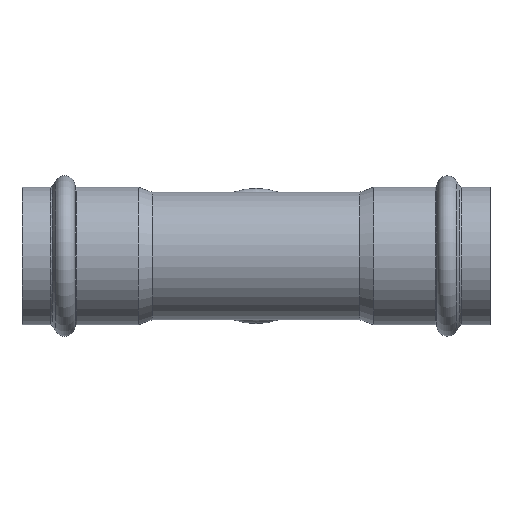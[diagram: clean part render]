
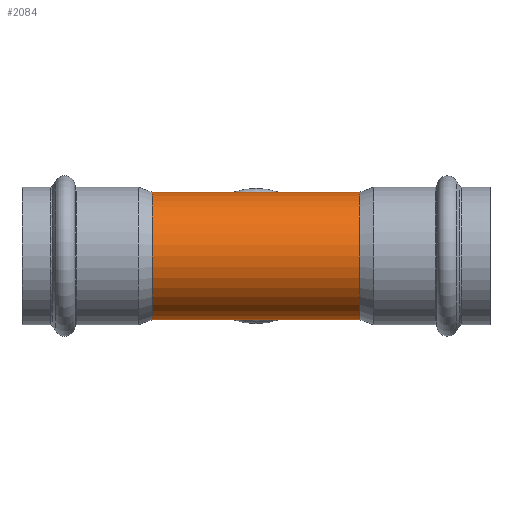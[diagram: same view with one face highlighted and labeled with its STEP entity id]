
A CAD part, front view. The second image highlights one B-rep face of the part: STEP entity #2084.
In plain terms, the highlighted cylindrical face has radius 21 mm (diameter 42 mm), a full revolution.
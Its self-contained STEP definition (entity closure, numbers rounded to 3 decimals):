
#1885=CARTESIAN_POINT('',(0.,11.365,17.659));
#1886=VERTEX_POINT('',#1885);
#1964=CARTESIAN_POINT('',(0.,11.365,17.659));
#1965=CARTESIAN_POINT('',(0.,11.365,17.659));
#1966=CARTESIAN_POINT('',(0.,11.365,17.659));
#1967=CARTESIAN_POINT('',(0.,11.365,17.659));
#1968=CARTESIAN_POINT('',(0.554,11.365,17.659));
#1969=CARTESIAN_POINT('',(1.291,11.415,17.627));
#1970=CARTESIAN_POINT('',(2.745,11.637,17.482));
#1971=CARTESIAN_POINT('',(5.033,12.229,17.087));
#1972=CARTESIAN_POINT('',(7.124,13.208,16.352));
#1973=CARTESIAN_POINT('',(8.884,14.174,15.5));
#1974=CARTESIAN_POINT('',(10.016,14.839,14.877));
#1975=CARTESIAN_POINT('',(11.483,15.778,13.887));
#1976=CARTESIAN_POINT('',(12.836,16.706,12.752));
#1977=CARTESIAN_POINT('',(13.741,17.353,11.837));
#1978=CARTESIAN_POINT('',(15.025,18.291,10.391));
#1979=CARTESIAN_POINT('',(16.255,19.228,8.615));
#1980=CARTESIAN_POINT('',(17.312,20.055,6.311));
#1981=CARTESIAN_POINT('',(17.753,20.404,5.005));
#1982=CARTESIAN_POINT('',(18.297,20.837,3.));
#1983=CARTESIAN_POINT('',(18.59,21.072,0.708));
#1984=CARTESIAN_POINT('',(18.411,20.928,-2.112));
#1985=CARTESIAN_POINT('',(17.976,20.581,-4.406));
#1986=CARTESIAN_POINT('',(17.411,20.133,-6.046));
#1987=CARTESIAN_POINT('',(16.86,19.701,-7.28));
#1988=CARTESIAN_POINT('',(16.462,19.392,-8.085));
#1989=CARTESIAN_POINT('',(15.623,18.747,-9.528));
#1990=CARTESIAN_POINT('',(14.703,18.055,-10.761));
#1991=CARTESIAN_POINT('',(13.555,17.218,-12.042));
#1992=CARTESIAN_POINT('',(12.324,16.345,-13.231));
#1993=CARTESIAN_POINT('',(10.44,15.089,-14.65));
#1994=CARTESIAN_POINT('',(8.743,14.081,-15.592));
#1995=CARTESIAN_POINT('',(7.147,13.242,-16.306));
#1996=CARTESIAN_POINT('',(5.883,12.65,-16.769));
#1997=CARTESIAN_POINT('',(4.328,12.072,-17.186));
#1998=CARTESIAN_POINT('',(2.932,11.679,-17.454));
#1999=CARTESIAN_POINT('',(1.484,11.425,-17.621));
#2000=CARTESIAN_POINT('',(0.009,11.335,-17.678));
#2001=CARTESIAN_POINT('',(-1.47,11.423,-17.622));
#2002=CARTESIAN_POINT('',(-3.396,11.759,-17.402));
#2003=CARTESIAN_POINT('',(-5.695,12.531,-16.869));
#2004=CARTESIAN_POINT('',(-8.998,14.15,-15.589));
#2005=CARTESIAN_POINT('',(-11.536,15.798,-13.937));
#2006=CARTESIAN_POINT('',(-13.407,17.112,-12.19));
#2007=CARTESIAN_POINT('',(-14.578,17.961,-10.93));
#2008=CARTESIAN_POINT('',(-15.627,18.749,-9.522));
#2009=CARTESIAN_POINT('',(-16.517,19.435,-7.99));
#2010=CARTESIAN_POINT('',(-17.3,20.045,-6.368));
#2011=CARTESIAN_POINT('',(-18.049,20.638,-4.195));
#2012=CARTESIAN_POINT('',(-18.52,21.016,-1.419));
#2013=CARTESIAN_POINT('',(-18.519,21.016,1.416));
#2014=CARTESIAN_POINT('',(-18.129,20.702,3.728));
#2015=CARTESIAN_POINT('',(-17.599,20.282,5.501));
#2016=CARTESIAN_POINT('',(-16.941,19.763,7.195));
#2017=CARTESIAN_POINT('',(-16.095,19.106,8.784));
#2018=CARTESIAN_POINT('',(-15.094,18.349,10.237));
#2019=CARTESIAN_POINT('',(-13.738,17.343,11.924));
#2020=CARTESIAN_POINT('',(-12.008,16.114,13.535));
#2021=CARTESIAN_POINT('',(-9.87,14.745,14.975));
#2022=CARTESIAN_POINT('',(-8.16,13.754,15.886));
#2023=CARTESIAN_POINT('',(-6.311,12.829,16.637));
#2024=CARTESIAN_POINT('',(-4.334,12.048,17.207));
#2025=CARTESIAN_POINT('',(-2.214,11.499,17.574));
#2026=CARTESIAN_POINT('',(-0.738,11.365,17.659));
#2027=CARTESIAN_POINT('',(0.,11.365,17.659));
#2028=B_SPLINE_CURVE_WITH_KNOTS('',3,(#1964,#1965,#1966,#1967,#1968,#1969,#1970,#1971,#1972,#1973,#1974,#1975,#1976,#1977,#1978,#1979,#1980,#1981,#1982,#1983,#1984,#1985,#1986,#1987,#1988,#1989,#1990,#1991,#1992,#1993,#1994,#1995,#1996,#1997,#1998,#1999,#2000,#2001,#2002,#2003,#2004,#2005,#2006,#2007,#2008,#2009,#2010,#2011,#2012,#2013,#2014,#2015,#2016,#2017,#2018,#2019,#2020,#2021,#2022,#2023,#2024,#2025,#2026,#2027),.UNSPECIFIED.,.T.,.U.,(4,3,1,1,1,1,1,1,1,1,1,1,1,1,1,1,1,1,1,1,1,1,1,1,1,1,1,1,1,1,1,1,1,1,1,1,1,1,1,1,1,1,1,1,1,1,1,1,1,1,1,1,1,1,1,1,1,1,1,4),(-11.425,-11.425,-11.272,-11.221,-11.017,-10.609,-10.558,-10.405,-10.201,-9.997,-9.844,-9.793,-9.385,-9.181,-9.028,-8.977,-8.569,-8.365,-8.161,-7.889,-7.855,-7.753,-7.617,-7.345,-7.277,-7.073,-6.801,-6.529,-6.461,-6.257,-6.121,-5.985,-5.849,-5.713,-5.577,-5.441,-5.169,-4.897,-4.352,-4.216,-4.08,-3.808,-3.672,-3.536,-3.264,-2.992,-2.72,-2.448,-2.312,-2.176,-1.904,-1.768,-1.632,-1.224,-1.02,-0.816,-0.612,-0.408,-0.204,0.),.UNSPECIFIED.);
#2029=EDGE_CURVE('',#1886,#1886,#2028,.T.);
#2054=CARTESIAN_POINT('',(0.0,0.0,0.0));
#2055=DIRECTION('',(1.0,0.,0.0));
#2056=DIRECTION('',(0.0,1.0,0.0));
#2057=AXIS2_PLACEMENT_3D('',#2054,#2055,#2056);
#2058=CYLINDRICAL_SURFACE('',#2057,21.0);
#2059=CARTESIAN_POINT('',(-34.202,21.0,0.0));
#2060=VERTEX_POINT('',#2059);
#2061=CARTESIAN_POINT('',(-34.202,0.,0.0));
#2062=DIRECTION('',(1.0,0.0,0.0));
#2063=DIRECTION('',(0.0,1.0,0.0));
#2064=AXIS2_PLACEMENT_3D('',#2061,#2062,#2063);
#2065=CIRCLE('',#2064,21.);
#2066=EDGE_CURVE('',#2060,#2060,#2065,.T.);
#2067=ORIENTED_EDGE('',*,*,#2066,.T.);
#2068=EDGE_LOOP('',(#2067));
#2069=FACE_OUTER_BOUND('',#2068,.T.);
#2070=CARTESIAN_POINT('',(34.202,21.0,0.0));
#2071=VERTEX_POINT('',#2070);
#2072=CARTESIAN_POINT('',(34.202,0.,0.0));
#2073=DIRECTION('',(1.0,0.0,0.0));
#2074=DIRECTION('',(0.0,1.0,0.0));
#2075=AXIS2_PLACEMENT_3D('',#2072,#2073,#2074);
#2076=CIRCLE('',#2075,21.);
#2077=EDGE_CURVE('',#2071,#2071,#2076,.T.);
#2078=ORIENTED_EDGE('',*,*,#2077,.F.);
#2079=EDGE_LOOP('',(#2078));
#2080=FACE_BOUND('',#2079,.T.);
#2081=ORIENTED_EDGE('',*,*,#2029,.F.);
#2082=EDGE_LOOP('',(#2081));
#2083=FACE_BOUND('',#2082,.T.);
#2084=ADVANCED_FACE('',(#2069,#2080,#2083),#2058,.T.);
